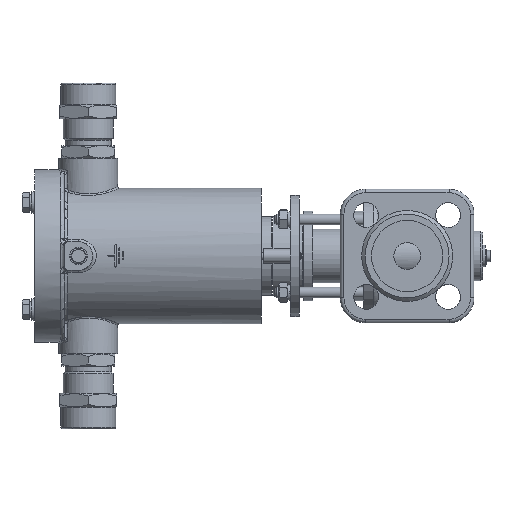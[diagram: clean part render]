
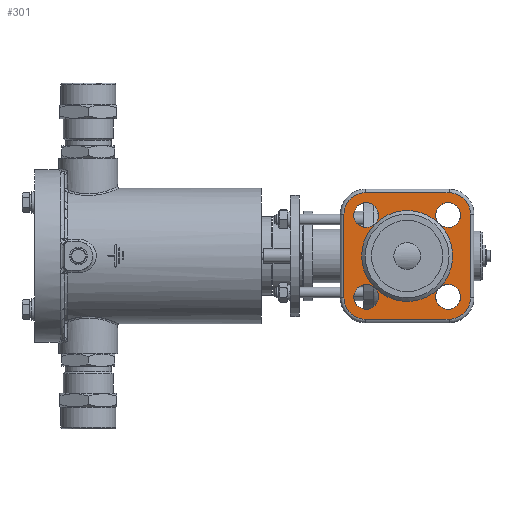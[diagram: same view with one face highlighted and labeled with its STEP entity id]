
A CAD part, left-side view. The second image highlights one B-rep face of the part: STEP entity #301.
In plain terms, the highlighted planar face has unit normal (-1, 0, 0).
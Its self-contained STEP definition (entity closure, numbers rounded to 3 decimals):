
#301=ADVANCED_FACE('',(#6861,#6863,#6865,#6867,#6869,#6871),#6873,.T.);
#6861=FACE_BOUND('',#6862,.T.);
#6862=EDGE_LOOP('',(#22200));
#6863=FACE_BOUND('',#6864,.T.);
#6864=EDGE_LOOP('',(#22201));
#6865=FACE_BOUND('',#6866,.T.);
#6866=EDGE_LOOP('',(#22202));
#6867=FACE_BOUND('',#6868,.T.);
#6868=EDGE_LOOP('',(#22203));
#6869=FACE_BOUND('',#6870,.T.);
#6870=EDGE_LOOP('',(#22204));
#6871=FACE_OUTER_BOUND('',#6872,.T.);
#6872=EDGE_LOOP('',(#22205,#22206,#22207,#22208,#22209,#22210,#22211,#22212));
#6873=PLANE('',#6874);
#6874=AXIS2_PLACEMENT_3D('',#6875,#6876,#6877);
#6875=CARTESIAN_POINT('',(-64.,0.,0.));
#6876=DIRECTION('',(-1.,-0.,-0.));
#6877=DIRECTION('',(0.,1.,0.));
#22200=ORIENTED_EDGE('',*,*,#35104,.T.);
#22201=ORIENTED_EDGE('',*,*,#35106,.T.);
#22202=ORIENTED_EDGE('',*,*,#35100,.T.);
#22203=ORIENTED_EDGE('',*,*,#35159,.T.);
#22204=ORIENTED_EDGE('',*,*,#35102,.T.);
#22205=ORIENTED_EDGE('',*,*,#35160,.T.);
#22206=ORIENTED_EDGE('',*,*,#35161,.T.);
#22207=ORIENTED_EDGE('',*,*,#35162,.T.);
#22208=ORIENTED_EDGE('',*,*,#35163,.T.);
#22209=ORIENTED_EDGE('',*,*,#35164,.T.);
#22210=ORIENTED_EDGE('',*,*,#35165,.T.);
#22211=ORIENTED_EDGE('',*,*,#35166,.T.);
#22212=ORIENTED_EDGE('',*,*,#35167,.T.);
#35100=EDGE_CURVE('',#40155,#40155,#40157,.F.);
#35102=EDGE_CURVE('',#40158,#40158,#40160,.F.);
#35104=EDGE_CURVE('',#40161,#40161,#40163,.F.);
#35106=EDGE_CURVE('',#40164,#40164,#40166,.F.);
#35159=EDGE_CURVE('',#40247,#40247,#40248,.T.);
#35160=EDGE_CURVE('',#40249,#40250,#40251,.T.);
#35161=EDGE_CURVE('',#40250,#40252,#40253,.T.);
#35162=EDGE_CURVE('',#40252,#40254,#40255,.T.);
#35163=EDGE_CURVE('',#40254,#40256,#40257,.T.);
#35164=EDGE_CURVE('',#40256,#40258,#40259,.T.);
#35165=EDGE_CURVE('',#40258,#40260,#40261,.T.);
#35166=EDGE_CURVE('',#40260,#40262,#40263,.T.);
#35167=EDGE_CURVE('',#40262,#40249,#40264,.T.);
#40155=VERTEX_POINT('',#52398);
#40157=CIRCLE('',#52402,7.);
#40158=VERTEX_POINT('',#52406);
#40160=CIRCLE('',#52410,7.);
#40161=VERTEX_POINT('',#52414);
#40163=CIRCLE('',#52418,7.);
#40164=VERTEX_POINT('',#52422);
#40166=CIRCLE('',#52426,7.);
#40247=VERTEX_POINT('',#52642);
#40248=CIRCLE('',#52643,25.5);
#40249=VERTEX_POINT('',#52647);
#40250=VERTEX_POINT('',#52648);
#40251=LINE('',#52649,#52650);
#40252=VERTEX_POINT('',#52652);
#40253=CIRCLE('',#52653,12.);
#40254=VERTEX_POINT('',#52657);
#40255=LINE('',#52658,#52659);
#40256=VERTEX_POINT('',#52661);
#40257=CIRCLE('',#52662,12.);
#40258=VERTEX_POINT('',#52666);
#40259=LINE('',#52667,#52668);
#40260=VERTEX_POINT('',#52670);
#40261=CIRCLE('',#52671,12.);
#40262=VERTEX_POINT('',#52675);
#40263=LINE('',#52676,#52677);
#40264=CIRCLE('',#52679,12.);
#52398=CARTESIAN_POINT('',(-64.,-22.981,-29.981));
#52402=AXIS2_PLACEMENT_3D('',#52403,#52404,#52405);
#52403=CARTESIAN_POINT('',(-64.,-22.981,-22.981));
#52404=DIRECTION('',(-1.,-0.,-0.));
#52405=DIRECTION('',(0.,0.,-1.));
#52406=CARTESIAN_POINT('',(-64.,-22.981,15.981));
#52410=AXIS2_PLACEMENT_3D('',#52411,#52412,#52413);
#52411=CARTESIAN_POINT('',(-64.,-22.981,22.981));
#52412=DIRECTION('',(-1.,-0.,-0.));
#52413=DIRECTION('',(0.,0.,-1.));
#52414=CARTESIAN_POINT('',(-64.,22.981,15.981));
#52418=AXIS2_PLACEMENT_3D('',#52419,#52420,#52421);
#52419=CARTESIAN_POINT('',(-64.,22.981,22.981));
#52420=DIRECTION('',(-1.,-0.,-0.));
#52421=DIRECTION('',(0.,0.,-1.));
#52422=CARTESIAN_POINT('',(-64.,22.981,-29.981));
#52426=AXIS2_PLACEMENT_3D('',#52427,#52428,#52429);
#52427=CARTESIAN_POINT('',(-64.,22.981,-22.981));
#52428=DIRECTION('',(-1.,-0.,-0.));
#52429=DIRECTION('',(0.,0.,-1.));
#52642=CARTESIAN_POINT('',(-64.,25.5,0.));
#52643=AXIS2_PLACEMENT_3D('',#52644,#52645,#52646);
#52644=CARTESIAN_POINT('',(-64.,0.,0.));
#52645=DIRECTION('',(1.,0.,0.));
#52646=DIRECTION('',(0.,1.,0.));
#52647=CARTESIAN_POINT('',(-64.,23.5,-35.5));
#52648=CARTESIAN_POINT('',(-64.,-23.5,-35.5));
#52649=CARTESIAN_POINT('',(-64.,23.5,-35.5));
#52650=VECTOR('',#52651,1.);
#52651=DIRECTION('',(0.,-1.,0.));
#52652=CARTESIAN_POINT('',(-64.,-35.5,-23.5));
#52653=AXIS2_PLACEMENT_3D('',#52654,#52655,#52656);
#52654=CARTESIAN_POINT('',(-64.,-23.5,-23.5));
#52655=DIRECTION('',(-1.,0.,-0.));
#52656=DIRECTION('',(0.,0.,-1.));
#52657=CARTESIAN_POINT('',(-64.,-35.5,23.5));
#52658=CARTESIAN_POINT('',(-64.,-35.5,-23.5));
#52659=VECTOR('',#52660,1.);
#52660=DIRECTION('',(0.,0.,1.));
#52661=CARTESIAN_POINT('',(-64.,-23.5,35.5));
#52662=AXIS2_PLACEMENT_3D('',#52663,#52664,#52665);
#52663=CARTESIAN_POINT('',(-64.,-23.5,23.5));
#52664=DIRECTION('',(-1.,-0.,0.));
#52665=DIRECTION('',(0.,-1.,0.));
#52666=CARTESIAN_POINT('',(-64.,23.5,35.5));
#52667=CARTESIAN_POINT('',(-64.,-23.5,35.5));
#52668=VECTOR('',#52669,1.);
#52669=DIRECTION('',(0.,1.,0.));
#52670=CARTESIAN_POINT('',(-64.,35.5,23.5));
#52671=AXIS2_PLACEMENT_3D('',#52672,#52673,#52674);
#52672=CARTESIAN_POINT('',(-64.,23.5,23.5));
#52673=DIRECTION('',(-1.,0.,0.));
#52674=DIRECTION('',(0.,0.,1.));
#52675=CARTESIAN_POINT('',(-64.,35.5,-23.5));
#52676=CARTESIAN_POINT('',(-64.,35.5,23.5));
#52677=VECTOR('',#52678,1.);
#52678=DIRECTION('',(0.,0.,-1.));
#52679=AXIS2_PLACEMENT_3D('',#52680,#52681,#52682);
#52680=CARTESIAN_POINT('',(-64.,23.5,-23.5));
#52681=DIRECTION('',(-1.,0.,0.));
#52682=DIRECTION('',(0.,1.,0.));
